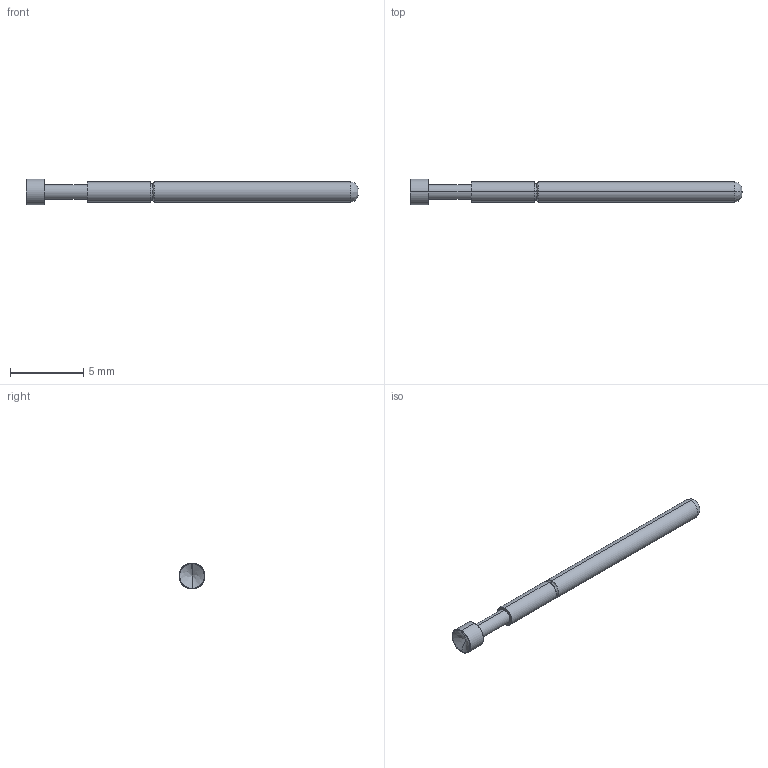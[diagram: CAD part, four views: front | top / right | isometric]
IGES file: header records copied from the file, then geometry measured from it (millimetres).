
Start section: SolidWorks IGES file using analytic representation for surfaces
Global section: file name: O:\PYLON\IGES FILES\P2664\P2664G-4V1S.IGS; native system: SolidWorks 2015; preprocessor: SolidWorks 2015; author: kgolden; date: 171019.120537; units: inch
Bounding box: 22.73 x 1.78 x 1.78 mm (x, y, z)
Surface area: 106.2 mm2 (no closed solid volume)
Topology: 0 solids, 0 shells, 22 faces, 216 edges, 214 vertices
Faces by surface type: revolution 12, bspline 10
